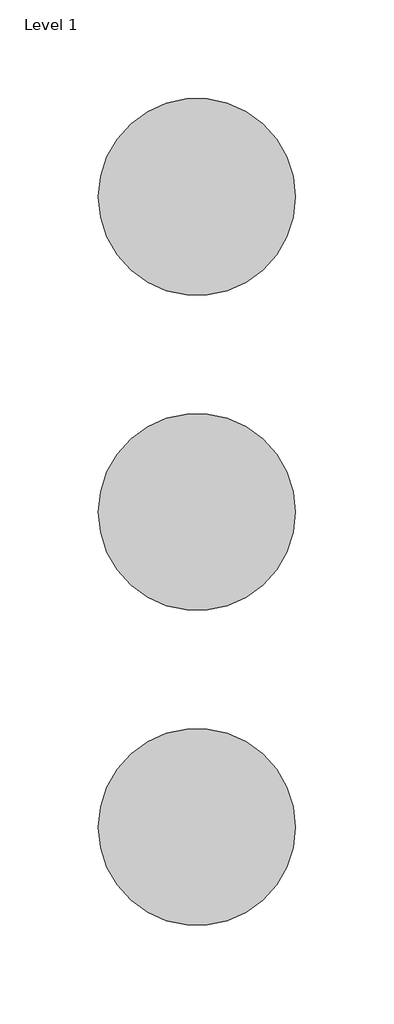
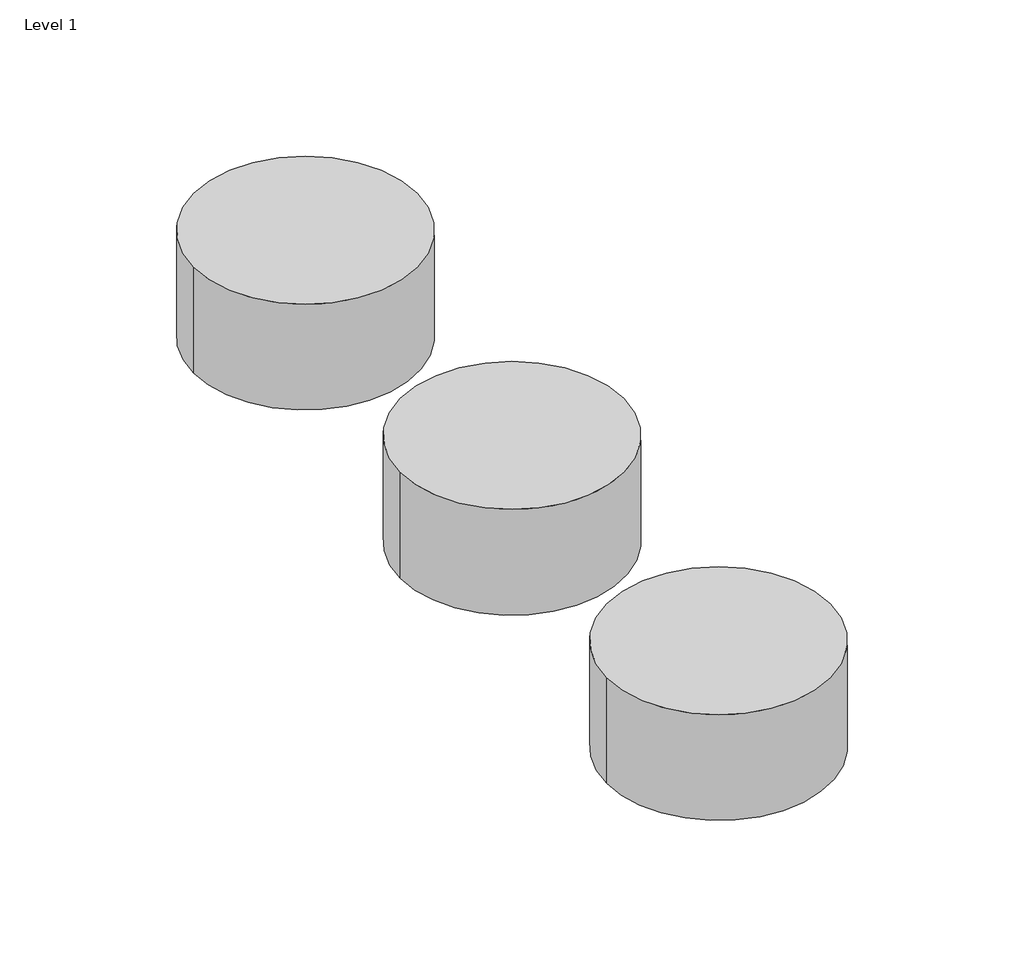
# One storey, incomplete: 3 proxies.
"""IFC4 building model written with IfcOpenShell, lengths in millimetres."""

from ifc_helpers import new_model, si_unit, origin, place, context, project, spatial, transform, mapped, element, save
from components import materialmodel_materialmodel_02e69005

model = new_model("IFC4")

# Units and contexts
model_context = context("Model", 3, world=origin())
ifc_project = project(units=[si_unit("LENGTHUNIT", "METRE", prefix="MILLI")], contexts=[model_context])

# Site, building, storey
site = spatial("IfcSite", under=ifc_project)
building = spatial("IfcBuilding", under=site)
storey = spatial("IfcBuildingStorey", under=building, Name="Level 1", Elevation=0.0)

# Proxies
placement = place(None, origin())
materialmodel_materialmodel_shape = materialmodel_materialmodel_02e69005(model_context)
element("IfcBuildingElementProxy", 1, Name="MaterialModel : MaterialModel", ObjectType="MaterialModel : MaterialModel", at=placement, inside=storey, context=model_context, shape_type="MappedRepresentation", body=[
    mapped(materialmodel_materialmodel_shape, transform((-5472.1657896, 4364.5048486, 0.0), x_axis=(1.0, 0.0, 0.0), y_axis=(0.0, 1.0, 0.0), z_axis=(0.0, 0.0, 1.0))),
])
element("IfcBuildingElementProxy", 2, Name="MaterialModel : MaterialModel", ObjectType="MaterialModel : MaterialModel", at=placement, inside=storey, context=model_context, shape_type="MappedRepresentation", body=[
    mapped(materialmodel_materialmodel_shape, transform((-5472.1657896, 4524.5048486, 0.0), x_axis=(1.0, 0.0, 0.0), y_axis=(0.0, 1.0, 0.0), z_axis=(0.0, 0.0, 1.0))),
])
element("IfcBuildingElementProxy", 3, Name="MaterialModel : MaterialModel", ObjectType="MaterialModel : MaterialModel", at=placement, inside=storey, context=model_context, shape_type="MappedRepresentation", body=[
    mapped(materialmodel_materialmodel_shape, transform((-5472.1657896, 4204.5048486, 0.0), x_axis=(1.0, 0.0, 0.0), y_axis=(0.0, 1.0, 0.0), z_axis=(0.0, 0.0, 1.0))),
])

save(model, "model.ifc")
